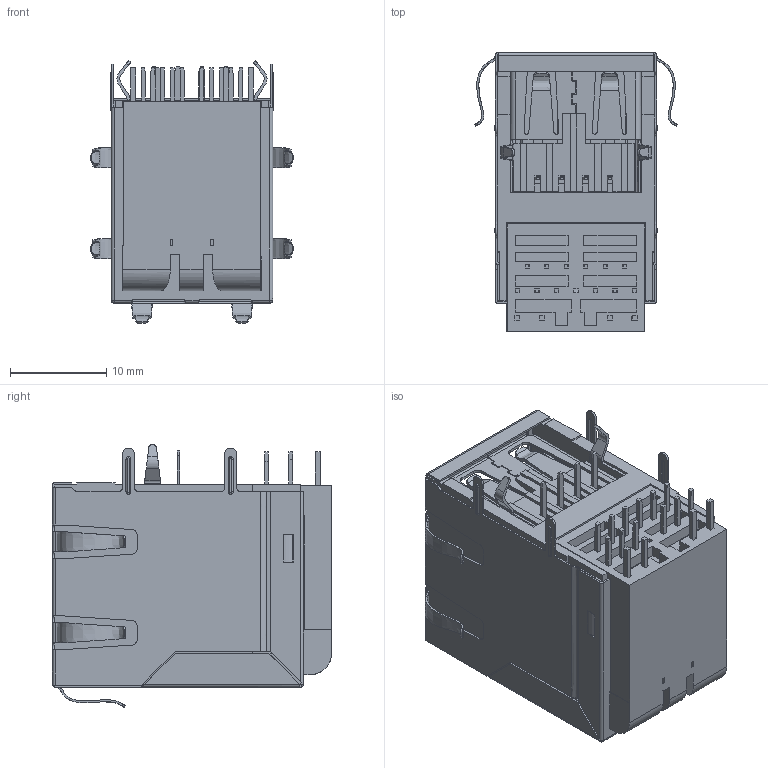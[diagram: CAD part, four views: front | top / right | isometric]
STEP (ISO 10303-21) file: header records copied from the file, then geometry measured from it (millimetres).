
FILE_DESCRIPTION((''),'2;1');
FILE_NAME('DGKYD611Q008DF5WD009','2022-04-14T16:28:08',('Administrator'),(''),'CREO PARAMETRIC BY PTC INC, 2018400','CREO PARAMETRIC BY PTC INC, 2018400','');
FILE_SCHEMA(('CONFIG_CONTROL_DESIGN'));
Products named in the file (1): DGKYD611Q008DF5WD009
Bounding box: 21 x 29 x 27.3 mm (x, y, z)
Volume: 4621.3 mm3; surface area: 10263.7 mm2
Topology: 1 solids, 8 shells, 1964 faces, 5711 edges, 3722 vertices
Faces by surface type: plane 1510, cylinder 374, extrusion 33, bspline 27, sphere 18, cone 2
Entity records: 67405 total; most frequent: CARTESIAN_POINT 15488, ORIENTED_EDGE 11390, DIRECTION 9952, EDGE_CURVE 5695, VECTOR 4662, LINE 4629, VERTEX_POINT 3722, AXIS2_PLACEMENT_3D 2645
